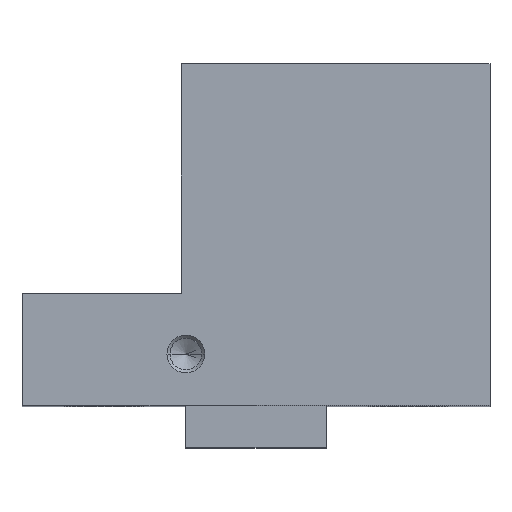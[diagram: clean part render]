
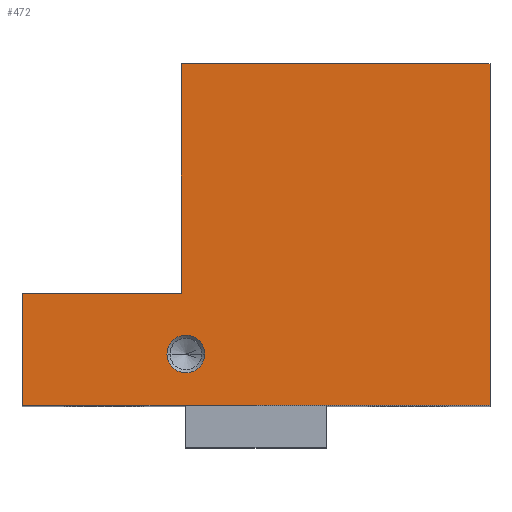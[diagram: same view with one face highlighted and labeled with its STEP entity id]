
A CAD part, top view. The second image highlights one B-rep face of the part: STEP entity #472.
In plain terms, the highlighted planar face has unit normal (0, 0, 1).
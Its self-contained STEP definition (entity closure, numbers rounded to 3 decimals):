
#1 = ORIENTED_EDGE ( 'NONE', *, *, #470, .T. ) ;
#2 = ORIENTED_EDGE ( 'NONE', *, *, #352, .T. ) ;
#3 = ORIENTED_EDGE ( 'NONE', *, *, #486, .T. ) ;
#84 = VERTEX_POINT ( 'NONE', #831 ) ;
#127 = VERTEX_POINT ( 'NONE', #758 ) ;
#147 = VERTEX_POINT ( 'NONE', #668 ) ;
#150 = EDGE_CURVE ( 'NONE', #147, #127, #666, .T. ) ;
#201 = ORIENTED_EDGE ( 'NONE', *, *, #240, .T. ) ;
#240 = EDGE_CURVE ( 'NONE', #241, #84, #899, .T. ) ;
#241 = VERTEX_POINT ( 'NONE', #895 ) ;
#279 = EDGE_CURVE ( 'NONE', #293, #304, #1051, .T. ) ;
#293 = VERTEX_POINT ( 'NONE', #991 ) ;
#295 = EDGE_CURVE ( 'NONE', #84, #293, #990, .T. ) ;
#304 = VERTEX_POINT ( 'NONE', #880 ) ;
#350 = VERTEX_POINT ( 'NONE', #1087 ) ;
#352 = EDGE_CURVE ( 'NONE', #484, #350, #1086, .T. ) ;
#470 = EDGE_CURVE ( 'NONE', #350, #241, #1146, .T. ) ;
#472 = ADVANCED_FACE ( 'NONE', ( #1234, #1233 ), #1232, .F. ) ;
#473 = EDGE_LOOP ( 'NONE', ( #474, #476 ) ) ;
#474 = ORIENTED_EDGE ( 'NONE', *, *, #475, .F. ) ;
#475 = EDGE_CURVE ( 'NONE', #127, #147, #1226, .T. ) ;
#476 = ORIENTED_EDGE ( 'NONE', *, *, #150, .F. ) ;
#477 = EDGE_LOOP ( 'NONE', ( #478, #479, #3, #2, #1, #201 ) ) ;
#478 = ORIENTED_EDGE ( 'NONE', *, *, #295, .T. ) ;
#479 = ORIENTED_EDGE ( 'NONE', *, *, #279, .T. ) ;
#484 = VERTEX_POINT ( 'NONE', #1213 ) ;
#486 = EDGE_CURVE ( 'NONE', #304, #484, #1212, .T. ) ;
#662 = DIRECTION ( 'NONE',  ( 1., 0., 0. ) ) ;
#663 = DIRECTION ( 'NONE',  ( 0., 0., 1. ) ) ;
#664 = CARTESIAN_POINT ( 'NONE',  ( -15., 19.9, 80.2 ) ) ;
#665 = AXIS2_PLACEMENT_3D ( 'NONE', #664, #663, #662 ) ;
#666 = CIRCLE ( 'NONE', #665, 4.025 ) ;
#668 = CARTESIAN_POINT ( 'NONE',  ( -19.025, 19.9, 80.2 ) ) ;
#758 = CARTESIAN_POINT ( 'NONE',  ( -10.975, 19.9, 80.2 ) ) ;
#831 = CARTESIAN_POINT ( 'NONE',  ( -50., 8.9, 80.2 ) ) ;
#880 = CARTESIAN_POINT ( 'NONE',  ( 50., 81.9, 80.2 ) ) ;
#895 = CARTESIAN_POINT ( 'NONE',  ( -50., 32.9, 80.2 ) ) ;
#896 = DIRECTION ( 'NONE',  ( 0., -1., 0. ) ) ;
#897 = VECTOR ( 'NONE', #896, 1000. ) ;
#898 = CARTESIAN_POINT ( 'NONE',  ( -50., 32.9, 80.2 ) ) ;
#899 = LINE ( 'NONE', #898, #897 ) ;
#987 = DIRECTION ( 'NONE',  ( 1., 0., 0. ) ) ;
#988 = VECTOR ( 'NONE', #987, 1000. ) ;
#989 = CARTESIAN_POINT ( 'NONE',  ( -50., 8.9, 80.2 ) ) ;
#990 = LINE ( 'NONE', #989, #988 ) ;
#991 = CARTESIAN_POINT ( 'NONE',  ( 50., 8.9, 80.2 ) ) ;
#1018 = DIRECTION ( 'NONE',  ( 0., 1., 0. ) ) ;
#1019 = VECTOR ( 'NONE', #1018, 1000. ) ;
#1049 = CARTESIAN_POINT ( 'NONE',  ( 50., 8.9, 80.2 ) ) ;
#1051 = LINE ( 'NONE', #1049, #1019 ) ;
#1083 = DIRECTION ( 'NONE',  ( 0., -1., 0. ) ) ;
#1084 = VECTOR ( 'NONE', #1083, 1000. ) ;
#1085 = CARTESIAN_POINT ( 'NONE',  ( -16., 81.9, 80.2 ) ) ;
#1086 = LINE ( 'NONE', #1085, #1084 ) ;
#1087 = CARTESIAN_POINT ( 'NONE',  ( -16., 32.9, 80.2 ) ) ;
#1145 = CARTESIAN_POINT ( 'NONE',  ( -50., 32.9, 80.2 ) ) ;
#1146 = LINE ( 'NONE', #1145, #1236 ) ;
#1209 = DIRECTION ( 'NONE',  ( -1., 0., 0. ) ) ;
#1210 = VECTOR ( 'NONE', #1209, 1000. ) ;
#1211 = CARTESIAN_POINT ( 'NONE',  ( 50., 81.9, 80.2 ) ) ;
#1212 = LINE ( 'NONE', #1211, #1210 ) ;
#1213 = CARTESIAN_POINT ( 'NONE',  ( -16., 81.9, 80.2 ) ) ;
#1223 = DIRECTION ( 'NONE',  ( 1., 0., 0. ) ) ;
#1224 = DIRECTION ( 'NONE',  ( 0., 0., 1. ) ) ;
#1225 = AXIS2_PLACEMENT_3D ( 'NONE', #1230, #1224, #1223 ) ;
#1226 = CIRCLE ( 'NONE', #1225, 4.025 ) ;
#1227 = DIRECTION ( 'NONE',  ( -1., 0., 0. ) ) ;
#1228 = DIRECTION ( 'NONE',  ( 0., 0., -1. ) ) ;
#1229 = AXIS2_PLACEMENT_3D ( 'NONE', #1231, #1228, #1227 ) ;
#1230 = CARTESIAN_POINT ( 'NONE',  ( -15., 19.9, 80.2 ) ) ;
#1231 = CARTESIAN_POINT ( 'NONE',  ( -50., 81.9, 80.2 ) ) ;
#1232 = PLANE ( 'NONE',  #1229 ) ;
#1233 = FACE_OUTER_BOUND ( 'NONE', #477, .T. ) ;
#1234 = FACE_BOUND ( 'NONE', #473, .T. ) ;
#1235 = DIRECTION ( 'NONE',  ( -1., 0., 0. ) ) ;
#1236 = VECTOR ( 'NONE', #1235, 1000. ) ;
